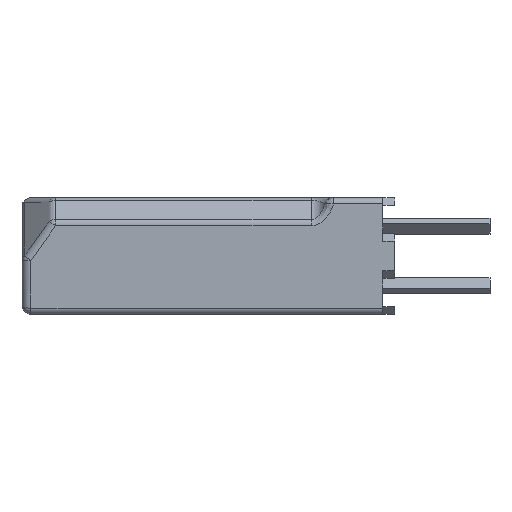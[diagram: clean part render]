
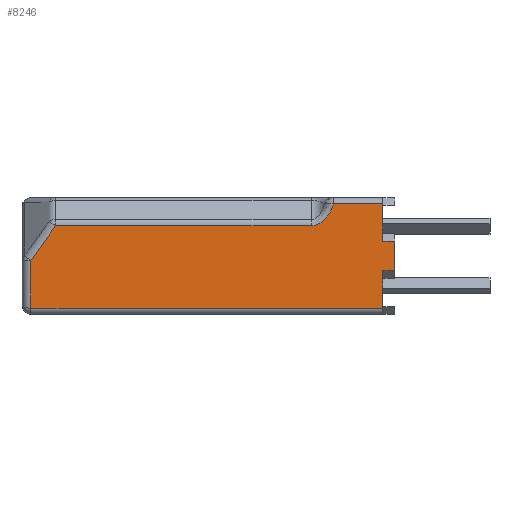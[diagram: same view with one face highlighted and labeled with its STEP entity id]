
A CAD part, left-side view. The second image highlights one B-rep face of the part: STEP entity #8246.
In plain terms, the highlighted planar face has unit normal (-1, 0, 0).
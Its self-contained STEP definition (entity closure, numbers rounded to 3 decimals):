
#148 = DIRECTION ( 'NONE',  ( 0., 1., 0. ) ) ;
#154 = VECTOR ( 'NONE', #7655, 1000. ) ;
#301 = VECTOR ( 'NONE', #12842, 1000. ) ;
#310 = DIRECTION ( 'NONE',  ( 0., 1., 0. ) ) ;
#359 = EDGE_CURVE ( 'NONE', #14209, #17340, #6962, .T. ) ;
#392 = VECTOR ( 'NONE', #6334, 1000. ) ;
#529 = LINE ( 'NONE', #5337, #13794 ) ;
#754 = VECTOR ( 'NONE', #4833, 1000. ) ;
#823 = CARTESIAN_POINT ( 'NONE',  ( -1.95, 2.054, 1.012 ) ) ;
#1297 = DIRECTION ( 'NONE',  ( 0., 0., -1. ) ) ;
#1383 = VERTEX_POINT ( 'NONE', #3851 ) ;
#1892 =( BOUNDED_CURVE ( )  B_SPLINE_CURVE ( 3, ( #17180, #7620, #823, #10339 ),
 .UNSPECIFIED., .F., .F. ) 
 B_SPLINE_CURVE_WITH_KNOTS ( ( 4, 4 ),
 ( 5.067, 6.283 ),
 .UNSPECIFIED. ) 
 CURVE ( )  GEOMETRIC_REPRESENTATION_ITEM ( )  RATIONAL_B_SPLINE_CURVE ( ( 1., 0.881, 0.881, 1. ) ) 
 REPRESENTATION_ITEM ( '' )  );
#1992 = CARTESIAN_POINT ( 'NONE',  ( -1.95, 0., 1.95 ) ) ;
#2441 = CARTESIAN_POINT ( 'NONE',  ( -1.95, 12.1, 1.95 ) ) ;
#2461 = VERTEX_POINT ( 'NONE', #3311 ) ;
#2829 = EDGE_CURVE ( 'NONE', #16769, #2461, #4394, .T. ) ;
#3067 = VERTEX_POINT ( 'NONE', #9705 ) ;
#3094 = VERTEX_POINT ( 'NONE', #4344 ) ;
#3281 = LINE ( 'NONE', #10459, #16956 ) ;
#3311 = CARTESIAN_POINT ( 'NONE',  ( -1.95, 0., -0.5 ) ) ;
#3443 = EDGE_CURVE ( 'NONE', #1383, #8227, #529, .T. ) ;
#3571 = ORIENTED_EDGE ( 'NONE', *, *, #17662, .T. ) ;
#3698 = DIRECTION ( 'NONE',  ( 0., 1., 0. ) ) ;
#3715 = EDGE_CURVE ( 'NONE', #4784, #3067, #7571, .T. ) ;
#3813 = LINE ( 'NONE', #15908, #154 ) ;
#3839 = DIRECTION ( 'NONE',  ( 0., 0., -1. ) ) ;
#3851 = CARTESIAN_POINT ( 'NONE',  ( -1.95, 11.8, -0.154 ) ) ;
#4092 = EDGE_CURVE ( 'NONE', #17340, #11652, #10937, .T. ) ;
#4110 = VECTOR ( 'NONE', #310, 1000. ) ;
#4152 = VECTOR ( 'NONE', #148, 1000. ) ;
#4190 = VECTOR ( 'NONE', #8363, 1000. ) ;
#4344 = CARTESIAN_POINT ( 'NONE',  ( -1.95, 10.976, 1.012 ) ) ;
#4348 = ORIENTED_EDGE ( 'NONE', *, *, #3715, .F. ) ;
#4394 = LINE ( 'NONE', #7514, #754 ) ;
#4688 = DIRECTION ( 'NONE',  ( 0., 0., 1. ) ) ;
#4784 = VERTEX_POINT ( 'NONE', #7983 ) ;
#4833 = DIRECTION ( 'NONE',  ( 0., 0., 1. ) ) ;
#4842 = ORIENTED_EDGE ( 'NONE', *, *, #3443, .T. ) ;
#5122 = EDGE_CURVE ( 'NONE', #6912, #3094, #3281, .T. ) ;
#5337 = CARTESIAN_POINT ( 'NONE',  ( -1.95, 11.8, -1.95 ) ) ;
#5605 = ORIENTED_EDGE ( 'NONE', *, *, #2829, .T. ) ;
#6134 = ORIENTED_EDGE ( 'NONE', *, *, #4092, .T. ) ;
#6334 = DIRECTION ( 'NONE',  ( 0., 0.577, -0.816 ) ) ;
#6344 = CARTESIAN_POINT ( 'NONE',  ( -1.95, 0., -1.75 ) ) ;
#6490 = PLANE ( 'NONE',  #10714 ) ;
#6912 = VERTEX_POINT ( 'NONE', #8412 ) ;
#6962 = LINE ( 'NONE', #1992, #12977 ) ;
#7112 = CARTESIAN_POINT ( 'NONE',  ( -1.95, -0.4, -0.5 ) ) ;
#7394 = ORIENTED_EDGE ( 'NONE', *, *, #9305, .F. ) ;
#7514 = CARTESIAN_POINT ( 'NONE',  ( -1.95, 0., 1.95 ) ) ;
#7571 = LINE ( 'NONE', #11423, #301 ) ;
#7620 = CARTESIAN_POINT ( 'NONE',  ( -1.95, 1.77, 1.291 ) ) ;
#7655 = DIRECTION ( 'NONE',  ( 0., -1., 0. ) ) ;
#7737 = LINE ( 'NONE', #7112, #4110 ) ;
#7983 = CARTESIAN_POINT ( 'NONE',  ( -1.95, -0.4, 0.5 ) ) ;
#8227 = VERTEX_POINT ( 'NONE', #14714 ) ;
#8246 = ADVANCED_FACE ( 'NONE', ( #12685 ), #6490, .F. ) ;
#8363 = DIRECTION ( 'NONE',  ( 0., 1., 0. ) ) ;
#8412 = CARTESIAN_POINT ( 'NONE',  ( -1.95, 2.4, 1.012 ) ) ;
#9305 = EDGE_CURVE ( 'NONE', #3067, #2461, #7737, .T. ) ;
#9686 = CARTESIAN_POINT ( 'NONE',  ( -1.95, 12.1, 1.75 ) ) ;
#9705 = CARTESIAN_POINT ( 'NONE',  ( -1.95, -0.4, -0.5 ) ) ;
#9803 = CARTESIAN_POINT ( 'NONE',  ( -1.95, -0.4, 0.5 ) ) ;
#10339 = CARTESIAN_POINT ( 'NONE',  ( -1.95, 2.4, 1.012 ) ) ;
#10399 = CARTESIAN_POINT ( 'NONE',  ( -1.95, 0., 1.75 ) ) ;
#10404 = ORIENTED_EDGE ( 'NONE', *, *, #5122, .T. ) ;
#10459 = CARTESIAN_POINT ( 'NONE',  ( -1.95, 12.1, 1.012 ) ) ;
#10714 = AXIS2_PLACEMENT_3D ( 'NONE', #2441, #11999, #3839 ) ;
#10814 = LINE ( 'NONE', #14556, #392 ) ;
#10937 = LINE ( 'NONE', #9686, #4152 ) ;
#11423 = CARTESIAN_POINT ( 'NONE',  ( -1.95, -0.4, 0.5 ) ) ;
#11630 = ORIENTED_EDGE ( 'NONE', *, *, #16227, .T. ) ;
#11652 = VERTEX_POINT ( 'NONE', #12600 ) ;
#11999 = DIRECTION ( 'NONE',  ( 1., 0., 0. ) ) ;
#12600 = CARTESIAN_POINT ( 'NONE',  ( -1.95, 1.65, 1.75 ) ) ;
#12685 = FACE_OUTER_BOUND ( 'NONE', #16665, .T. ) ;
#12842 = DIRECTION ( 'NONE',  ( 0., 0., -1. ) ) ;
#12977 = VECTOR ( 'NONE', #4688, 1000. ) ;
#13624 = EDGE_CURVE ( 'NONE', #3094, #1383, #10814, .T. ) ;
#13794 = VECTOR ( 'NONE', #1297, 1000. ) ;
#13971 = ORIENTED_EDGE ( 'NONE', *, *, #13624, .T. ) ;
#14209 = VERTEX_POINT ( 'NONE', #14868 ) ;
#14257 = ORIENTED_EDGE ( 'NONE', *, *, #359, .T. ) ;
#14556 = CARTESIAN_POINT ( 'NONE',  ( -1.95, 11.959, -0.378 ) ) ;
#14684 = LINE ( 'NONE', #9803, #4190 ) ;
#14714 = CARTESIAN_POINT ( 'NONE',  ( -1.95, 11.8, -1.75 ) ) ;
#14868 = CARTESIAN_POINT ( 'NONE',  ( -1.95, 0., 0.5 ) ) ;
#14920 = EDGE_CURVE ( 'NONE', #8227, #16769, #3813, .T. ) ;
#15808 = ORIENTED_EDGE ( 'NONE', *, *, #14920, .T. ) ;
#15908 = CARTESIAN_POINT ( 'NONE',  ( -1.95, 12.1, -1.75 ) ) ;
#16227 = EDGE_CURVE ( 'NONE', #11652, #6912, #1892, .T. ) ;
#16665 = EDGE_LOOP ( 'NONE', ( #14257, #6134, #11630, #10404, #13971, #4842, #15808, #5605, #7394, #4348, #3571 ) ) ;
#16769 = VERTEX_POINT ( 'NONE', #6344 ) ;
#16956 = VECTOR ( 'NONE', #3698, 1000. ) ;
#17180 = CARTESIAN_POINT ( 'NONE',  ( -1.95, 1.65, 1.75 ) ) ;
#17340 = VERTEX_POINT ( 'NONE', #10399 ) ;
#17662 = EDGE_CURVE ( 'NONE', #4784, #14209, #14684, .T. ) ;
